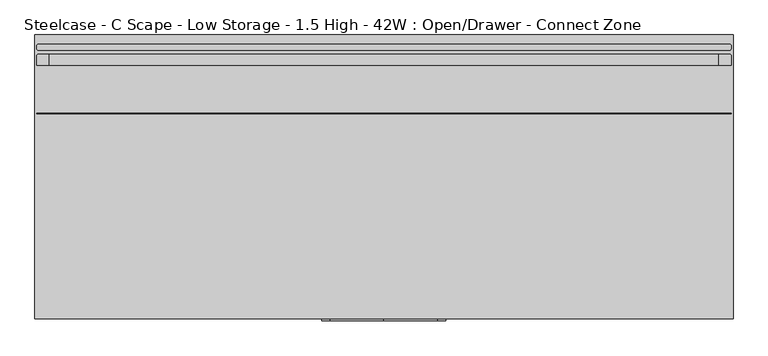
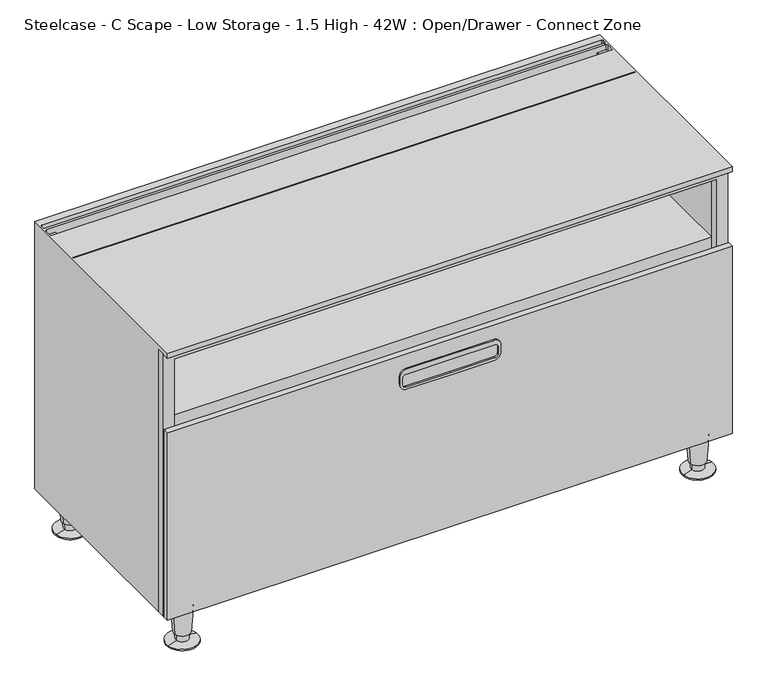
"""IFC4 building model written with IfcOpenShell, lengths in millimetres: furniture geometry, Steelcase - C Scape - Low Storage - 1.5 High - 42W : Open/Drawer - Connect Zone."""

from ifc_helpers import new_model, si_unit, point, frame, frame_2d, origin, place, context, project, spatial, polyline, circle_curve, trimmed, segment, composite_curve, outline, extrude, source, transform, mapped, element, save
from ifc_brep_helpers import plane_surface, cylinder_surface, revolved_surface, advanced_brep


def steelcase_c_scape_low_storage_1_5_high_42w_open_drawer_7091fb91(model_context):
    return source(origin(), model_context, "Body", "SolidModel", [
        extrude(outline(polyline([(599.44, 532.2710512), (599.44, 0.0), (76.1999955, 0.0), (76.1999955, 1065.53), (599.44, 1065.53), (599.44, 532.2710512)]), holes=[polyline([(92.7100024, 1043.5617285), (92.7100024, 21.3382324), (582.93, 21.3382324), (582.93, 1043.5617285), (92.7100024, 1043.5617285)])]), frame((0.0, -419.3484735, 0.0), z_axis=(0.0, 1.0, 0.0), x_axis=(0.0, 0.0, 1.0)), (0.0, 0.0, 1.0), 14.9862946),
        extrude(outline(composite_curve([segment(trimmed(circle_curve(frame_2d((409.5749879, 450.2147442)), 12.7), [point((422.2749879, 450.2147442))], [point((409.5749879, 437.5147442))], False, "CARTESIAN"), True, "CONTINUOUS"), segment(polyline([(409.5749879, 437.5147442), (394.970017, 437.5147442)]), True, "CONTINUOUS"), segment(trimmed(circle_curve(frame_2d((394.970017, 450.2147442)), 12.7), [point((394.970017, 437.5147442))], [point((382.270017, 450.2147442))], False, "CARTESIAN"), True, "CONTINUOUS"), segment(polyline([(382.270017, 450.2147442), (382.270017, 532.4475), (382.270017, 614.6802558)]), True, "CONTINUOUS"), segment(trimmed(circle_curve(frame_2d((394.970017, 614.6802558)), 12.7), [point((382.270017, 614.6802558))], [point((394.970017, 627.3802558))], False, "CARTESIAN"), True, "CONTINUOUS"), segment(polyline([(394.970017, 627.3802558), (409.5749879, 627.3802558)]), True, "CONTINUOUS"), segment(trimmed(circle_curve(frame_2d((409.5749879, 614.6802558)), 12.7), [point((409.5749879, 627.3802558))], [point((422.2749879, 614.6802558))], False, "CARTESIAN"), True, "CONTINUOUS"), segment(polyline([(422.2749879, 614.6802558), (422.2749879, 532.4475), (422.2749879, 450.2147442)]), True, "CONTINUOUS")], self_intersect=False), holes=[composite_curve([segment(trimmed(circle_curve(frame_2d((406.1460063, 448.6923565)), 6.35), [point((406.1460063, 442.3423565))], [point((412.4960063, 448.6923565))], True, "CARTESIAN"), True, "CONTINUOUS"), segment(polyline([(412.4960063, 448.6923565), (412.4960063, 532.4475), (412.4960063, 616.2026435)]), True, "CONTINUOUS"), segment(trimmed(circle_curve(frame_2d((406.1460063, 616.2026435)), 6.35), [point((412.4960063, 616.2026435))], [point((406.1460063, 622.5526435))], True, "CARTESIAN"), True, "CONTINUOUS"), segment(polyline([(406.1460063, 622.5526435), (393.4459942, 622.5526435)]), True, "CONTINUOUS"), segment(trimmed(circle_curve(frame_2d((393.4459942, 616.2026435)), 6.35), [point((393.4459942, 622.5526435))], [point((387.0959942, 616.2026435))], True, "CARTESIAN"), True, "CONTINUOUS"), segment(polyline([(387.0959942, 616.2026435), (387.0959942, 532.4475), (387.0959942, 448.6923565)]), True, "CONTINUOUS"), segment(trimmed(circle_curve(frame_2d((393.4459942, 448.6923565)), 6.35), [point((387.0959942, 448.6923565))], [point((393.4459942, 442.3423565))], True, "CARTESIAN"), True, "CONTINUOUS"), segment(polyline([(393.4459942, 442.3423565), (406.1460063, 442.3423565)]), True, "CONTINUOUS")], self_intersect=False)]), frame((0.0, -436.118, 0.0), z_axis=(0.0, 1.0, 0.0), x_axis=(0.0, 0.0, 1.0)), (0.0, 0.0, 1.0), 3.048),
        advanced_brep(
        [(1038.2598695, -31.5218435, 76.2), (1000.5981305, -37.2840847, 76.2), (1019.429, -34.4029641, 76.2), (1034.3095214, -32.1262463, 19.05), (1004.5484786, -36.6796819, 19.05), (1031.8799345, -32.4979728, 19.05), (1006.9780655, -36.3079555, 19.05), (1031.191165, -32.6033544, 5.7545598), (1007.666835, -36.2025738, 5.7545598), (1048.5400485, -29.9489775, 2.5119506), (990.3179515, -38.8569507, 2.5119506), (1048.5400485, -29.9489775, 0.0), (990.3179515, -38.8569507, 0.0), (1019.429, -34.4029641, 0.0)],
        [
            (0, 1, circle_curve(frame((1019.429, -34.4029641, 76.2), z_axis=(0.0, 0.0, 1.0), x_axis=(0.0, -1.0, 0.0)), 19.05)),
            (1, 2),
            (2, 0),
            (1, 0, circle_curve(frame((1019.429, -34.4029641, 76.2), z_axis=(0.0, 0.0, 1.0), x_axis=(0.0, -1.0, 0.0)), 19.05)),
            (3, 4, circle_curve(frame((1019.429, -34.4029641, 19.05), z_axis=(0.0, 0.0, 1.0), x_axis=(0.0, -1.0, 0.0)), 15.0536827)),
            (4, 1),
            (0, 3),
            (4, 3, circle_curve(frame((1019.429, -34.4029641, 19.05), z_axis=(0.0, 0.0, 1.0), x_axis=(0.0, -1.0, 0.0)), 15.0536827)),
            (5, 6, circle_curve(frame((1019.429, -34.4029641, 19.05), z_axis=(0.0, 0.0, 1.0), x_axis=(0.0, -1.0, 0.0)), 12.5958232)),
            (6, 4),
            (3, 5),
            (6, 5, circle_curve(frame((1019.429, -34.4029641, 19.05), z_axis=(0.0, 0.0, 1.0), x_axis=(0.0, -1.0, 0.0)), 12.5958232)),
            (7, 8, circle_curve(frame((1019.429, -34.4029641, 5.7545598), z_axis=(0.0, 0.0, 1.0), x_axis=(0.0, -1.0, 0.0)), 11.8990387)),
            (8, 6),
            (5, 7),
            (8, 7, circle_curve(frame((1019.429, -34.4029641, 5.7545598), z_axis=(0.0, 0.0, 1.0), x_axis=(0.0, -1.0, 0.0)), 11.8990387)),
            (9, 10, circle_curve(frame((1019.429, -34.4029641, 2.5119506), z_axis=(0.0, 0.0, 1.0), x_axis=(0.0, -1.0, 0.0)), 29.4498071)),
            (10, 8),
            (7, 9),
            (10, 9, circle_curve(frame((1019.429, -34.4029641, 2.5119506), z_axis=(0.0, 0.0, 1.0), x_axis=(0.0, -1.0, 0.0)), 29.4498071)),
            (11, 12, circle_curve(frame((1019.429, -34.4029641, 0.0), z_axis=(0.0, 0.0, 1.0), x_axis=(0.0, -1.0, 0.0)), 29.4498071)),
            (12, 10),
            (9, 11),
            (12, 11, circle_curve(frame((1019.429, -34.4029641, 0.0), z_axis=(0.0, 0.0, 1.0), x_axis=(0.0, -1.0, 0.0)), 29.4498071)),
            (13, 12),
            (11, 13),
        ],
        [
            plane_surface(frame((1019.429, -34.4029641, 76.2), z_axis=(0.0, 0.0, 1.0), x_axis=(0.0, -1.0, 0.0))),
            revolved_surface(polyline([(1019.429, -53.4529641, 76.2), (1019.429, -49.4566468, 19.05)]), (1019.429, -34.4029641, 25.4), (0.0, 0.0, -1.0)),
            plane_surface(frame((1019.429, -34.4029641, 19.05), z_axis=(0.0, 0.0, -1.0), x_axis=(0.0, -1.0, 0.0))),
            revolved_surface(polyline([(1019.429, -46.9987873, 19.05), (1019.429, -46.3020028, 5.7545598)]), (1019.429, -34.4029641, 25.4), (0.0, 0.0, -1.0)),
            revolved_surface(polyline([(1019.429, -46.3020028, 5.7545598), (1019.429, -63.8527712, 2.5119506)]), (1019.429, -34.4029641, 25.4), (0.0, 0.0, -1.0)),
            cylinder_surface(frame((1019.429, -34.4029641, 25.4), z_axis=(0.0, 0.0, -1.0), x_axis=(0.0, -1.0, 0.0)), 29.4498071),
            plane_surface(frame((1019.429, -34.4029641, 0.0), z_axis=(0.0, 0.0, -1.0), x_axis=(0.0, -1.0, 0.0))),
        ],
        [
            (0, [[1, 2, 3]]),
            (0, [[4, -3, -2]]),
            (1, [[5, 6, -1, 7]]),
            (1, [[8, -7, -4, -6]]),
            (2, [[9, 10, -5, 11]]),
            (2, [[12, -11, -8, -10]]),
            (3, [[13, 14, -9, 15]]),
            (3, [[16, -15, -12, -14]]),
            (4, [[17, 18, -13, 19]]),
            (4, [[20, -19, -16, -18]]),
            (5, [[21, 22, -17, 23]]),
            (5, [[24, -23, -20, -22]]),
            (6, [[25, -21, 26]]),
            (6, [[-26, -24, -25]]),
        ],
    ),
        advanced_brep(
        [(1038.2598695, -397.1702762, 76.2), (1000.5981305, -402.9325174, 76.2), (1019.429, -400.0513968, 76.2), (1034.3095214, -397.774679, 19.05), (1004.5484786, -402.3281146, 19.05), (1031.8799345, -398.1464055, 19.05), (1006.9780655, -401.9563882, 19.05), (1031.191165, -398.2517871, 5.7545598), (1007.666835, -401.8510065, 5.7545598), (1048.5400485, -395.5974102, 2.5119506), (990.3179515, -404.5053834, 2.5119506), (1048.5400485, -395.5974102, 0.0), (990.3179515, -404.5053834, 0.0), (1019.429, -400.0513968, 0.0)],
        [
            (0, 1, circle_curve(frame((1019.429, -400.0513968, 76.2), z_axis=(0.0, 0.0, 1.0), x_axis=(0.0, -1.0, 0.0)), 19.05)),
            (1, 2),
            (2, 0),
            (1, 0, circle_curve(frame((1019.429, -400.0513968, 76.2), z_axis=(0.0, 0.0, 1.0), x_axis=(0.0, -1.0, 0.0)), 19.05)),
            (3, 4, circle_curve(frame((1019.429, -400.0513968, 19.05), z_axis=(0.0, 0.0, 1.0), x_axis=(0.0, -1.0, 0.0)), 15.0536827)),
            (4, 1),
            (0, 3),
            (4, 3, circle_curve(frame((1019.429, -400.0513968, 19.05), z_axis=(0.0, 0.0, 1.0), x_axis=(0.0, -1.0, 0.0)), 15.0536827)),
            (5, 6, circle_curve(frame((1019.429, -400.0513968, 19.05), z_axis=(0.0, 0.0, 1.0), x_axis=(0.0, -1.0, 0.0)), 12.5958232)),
            (6, 4),
            (3, 5),
            (6, 5, circle_curve(frame((1019.429, -400.0513968, 19.05), z_axis=(0.0, 0.0, 1.0), x_axis=(0.0, -1.0, 0.0)), 12.5958232)),
            (7, 8, circle_curve(frame((1019.429, -400.0513968, 5.7545598), z_axis=(0.0, 0.0, 1.0), x_axis=(0.0, -1.0, 0.0)), 11.8990387)),
            (8, 6),
            (5, 7),
            (8, 7, circle_curve(frame((1019.429, -400.0513968, 5.7545598), z_axis=(0.0, 0.0, 1.0), x_axis=(0.0, -1.0, 0.0)), 11.8990387)),
            (9, 10, circle_curve(frame((1019.429, -400.0513968, 2.5119506), z_axis=(0.0, 0.0, 1.0), x_axis=(0.0, -1.0, 0.0)), 29.4498071)),
            (10, 8),
            (7, 9),
            (10, 9, circle_curve(frame((1019.429, -400.0513968, 2.5119506), z_axis=(0.0, 0.0, 1.0), x_axis=(0.0, -1.0, 0.0)), 29.4498071)),
            (11, 12, circle_curve(frame((1019.429, -400.0513968, 0.0), z_axis=(0.0, 0.0, 1.0), x_axis=(0.0, -1.0, 0.0)), 29.4498071)),
            (12, 10),
            (9, 11),
            (12, 11, circle_curve(frame((1019.429, -400.0513968, 0.0), z_axis=(0.0, 0.0, 1.0), x_axis=(0.0, -1.0, 0.0)), 29.4498071)),
            (13, 12),
            (11, 13),
        ],
        [
            plane_surface(frame((1019.429, -400.0513968, 76.2), z_axis=(0.0, 0.0, 1.0), x_axis=(0.0, -1.0, 0.0))),
            revolved_surface(polyline([(1019.429, -419.1013968, 76.2), (1019.429, -415.1050795, 19.05)]), (1019.429, -400.0513968, 25.4), (0.0, 0.0, -1.0)),
            plane_surface(frame((1019.429, -400.0513968, 19.05), z_axis=(0.0, 0.0, -1.0), x_axis=(0.0, -1.0, 0.0))),
            revolved_surface(polyline([(1019.429, -412.64722, 19.05), (1019.429, -411.9504355, 5.7545598)]), (1019.429, -400.0513968, 25.4), (0.0, 0.0, -1.0)),
            revolved_surface(polyline([(1019.429, -411.9504355, 5.7545598), (1019.429, -429.5012039, 2.5119506)]), (1019.429, -400.0513968, 25.4), (0.0, 0.0, -1.0)),
            cylinder_surface(frame((1019.429, -400.0513968, 25.4), z_axis=(0.0, 0.0, -1.0), x_axis=(0.0, -1.0, 0.0)), 29.4498071),
            plane_surface(frame((1019.429, -400.0513968, 0.0), z_axis=(0.0, 0.0, -1.0), x_axis=(0.0, -1.0, 0.0))),
        ],
        [
            (0, [[1, 2, 3]]),
            (0, [[4, -3, -2]]),
            (1, [[5, 6, -1, 7]]),
            (1, [[8, -7, -4, -6]]),
            (2, [[9, 10, -5, 11]]),
            (2, [[12, -11, -8, -10]]),
            (3, [[13, 14, -9, 15]]),
            (3, [[16, -15, -12, -14]]),
            (4, [[17, 18, -13, 19]]),
            (4, [[20, -19, -16, -18]]),
            (5, [[21, 22, -17, 23]]),
            (5, [[24, -23, -20, -22]]),
            (6, [[25, -21, 26]]),
            (6, [[-26, -24, -25]]),
        ],
    ),
        advanced_brep(
        [(65.5422821, -397.1702762, 76.2), (27.8805432, -402.9325174, 76.2), (46.7114126, -400.0513968, 76.2), (61.5919341, -397.774679, 19.05), (31.8308912, -402.3281146, 19.05), (59.1623471, -398.1464055, 19.05), (34.2604781, -401.9563882, 19.05), (58.4735776, -398.2517871, 5.7545598), (34.9492476, -401.8510065, 5.7545598), (75.8224611, -395.5974102, 2.5119506), (17.6003641, -404.5053834, 2.5119506), (75.8224611, -395.5974102, 0.0), (17.6003641, -404.5053834, 0.0), (46.7114126, -400.0513968, 0.0)],
        [
            (0, 1, circle_curve(frame((46.7114126, -400.0513968, 76.2), z_axis=(0.0, 0.0, 1.0), x_axis=(0.0, -1.0, 0.0)), 19.05)),
            (1, 2),
            (2, 0),
            (1, 0, circle_curve(frame((46.7114126, -400.0513968, 76.2), z_axis=(0.0, 0.0, 1.0), x_axis=(0.0, -1.0, 0.0)), 19.05)),
            (3, 4, circle_curve(frame((46.7114126, -400.0513968, 19.05), z_axis=(0.0, 0.0, 1.0), x_axis=(0.0, -1.0, 0.0)), 15.0536827)),
            (4, 1),
            (0, 3),
            (4, 3, circle_curve(frame((46.7114126, -400.0513968, 19.05), z_axis=(0.0, 0.0, 1.0), x_axis=(0.0, -1.0, 0.0)), 15.0536827)),
            (5, 6, circle_curve(frame((46.7114126, -400.0513968, 19.05), z_axis=(0.0, 0.0, 1.0), x_axis=(0.0, -1.0, 0.0)), 12.5958232)),
            (6, 4),
            (3, 5),
            (6, 5, circle_curve(frame((46.7114126, -400.0513968, 19.05), z_axis=(0.0, 0.0, 1.0), x_axis=(0.0, -1.0, 0.0)), 12.5958232)),
            (7, 8, circle_curve(frame((46.7114126, -400.0513968, 5.7545598), z_axis=(0.0, 0.0, 1.0), x_axis=(0.0, -1.0, 0.0)), 11.8990387)),
            (8, 6),
            (5, 7),
            (8, 7, circle_curve(frame((46.7114126, -400.0513968, 5.7545598), z_axis=(0.0, 0.0, 1.0), x_axis=(0.0, -1.0, 0.0)), 11.8990387)),
            (9, 10, circle_curve(frame((46.7114126, -400.0513968, 2.5119506), z_axis=(0.0, 0.0, 1.0), x_axis=(0.0, -1.0, 0.0)), 29.4498071)),
            (10, 8),
            (7, 9),
            (10, 9, circle_curve(frame((46.7114126, -400.0513968, 2.5119506), z_axis=(0.0, 0.0, 1.0), x_axis=(0.0, -1.0, 0.0)), 29.4498071)),
            (11, 12, circle_curve(frame((46.7114126, -400.0513968, 0.0), z_axis=(0.0, 0.0, 1.0), x_axis=(0.0, -1.0, 0.0)), 29.4498071)),
            (12, 10),
            (9, 11),
            (12, 11, circle_curve(frame((46.7114126, -400.0513968, 0.0), z_axis=(0.0, 0.0, 1.0), x_axis=(0.0, -1.0, 0.0)), 29.4498071)),
            (13, 12),
            (11, 13),
        ],
        [
            plane_surface(frame((46.7114126, -400.0513968, 76.2), z_axis=(0.0, 0.0, 1.0), x_axis=(0.0, -1.0, 0.0))),
            revolved_surface(polyline([(46.7114126, -419.1013968, 76.2), (46.7114126, -415.1050795, 19.05)]), (46.7114126, -400.0513968, 25.4), (0.0, 0.0, -1.0)),
            plane_surface(frame((46.7114126, -400.0513968, 19.05), z_axis=(0.0, 0.0, -1.0), x_axis=(0.0, -1.0, 0.0))),
            revolved_surface(polyline([(46.7114126, -412.64722, 19.05), (46.7114126, -411.9504355, 5.7545598)]), (46.7114126, -400.0513968, 25.4), (0.0, 0.0, -1.0)),
            revolved_surface(polyline([(46.7114126, -411.9504355, 5.7545598), (46.7114126, -429.5012039, 2.5119506)]), (46.7114126, -400.0513968, 25.4), (0.0, 0.0, -1.0)),
            cylinder_surface(frame((46.7114126, -400.0513968, 25.4), z_axis=(0.0, 0.0, -1.0), x_axis=(0.0, -1.0, 0.0)), 29.4498071),
            plane_surface(frame((46.7114126, -400.0513968, 0.0), z_axis=(0.0, 0.0, -1.0), x_axis=(0.0, -1.0, 0.0))),
        ],
        [
            (0, [[1, 2, 3]]),
            (0, [[4, -3, -2]]),
            (1, [[5, 6, -1, 7]]),
            (1, [[8, -7, -4, -6]]),
            (2, [[9, 10, -5, 11]]),
            (2, [[12, -11, -8, -10]]),
            (3, [[13, 14, -9, 15]]),
            (3, [[16, -15, -12, -14]]),
            (4, [[17, 18, -13, 19]]),
            (4, [[20, -19, -16, -18]]),
            (5, [[21, 22, -17, 23]]),
            (5, [[24, -23, -20, -22]]),
            (6, [[25, -21, 26]]),
            (6, [[-26, -24, -25]]),
        ],
    ),
        advanced_brep(
        [(65.5422821, -31.5218435, 76.2), (27.8805432, -37.2840847, 76.2), (46.7114126, -34.4029641, 76.2), (61.5919341, -32.1262463, 19.05), (31.8308912, -36.6796819, 19.05), (59.1623471, -32.4979728, 19.05), (34.2604781, -36.3079555, 19.05), (58.4735776, -32.6033544, 5.7545598), (34.9492476, -36.2025738, 5.7545598), (75.8224611, -29.9489775, 2.5119506), (17.6003641, -38.8569507, 2.5119506), (75.8224611, -29.9489775, 0.0), (17.6003641, -38.8569507, 0.0), (46.7114126, -34.4029641, 0.0)],
        [
            (0, 1, circle_curve(frame((46.7114126, -34.4029641, 76.2), z_axis=(0.0, 0.0, 1.0), x_axis=(0.0, -1.0, 0.0)), 19.05)),
            (1, 2),
            (2, 0),
            (1, 0, circle_curve(frame((46.7114126, -34.4029641, 76.2), z_axis=(0.0, 0.0, 1.0), x_axis=(0.0, -1.0, 0.0)), 19.05)),
            (3, 4, circle_curve(frame((46.7114126, -34.4029641, 19.05), z_axis=(0.0, 0.0, 1.0), x_axis=(0.0, -1.0, 0.0)), 15.0536827)),
            (4, 1),
            (0, 3),
            (4, 3, circle_curve(frame((46.7114126, -34.4029641, 19.05), z_axis=(0.0, 0.0, 1.0), x_axis=(0.0, -1.0, 0.0)), 15.0536827)),
            (5, 6, circle_curve(frame((46.7114126, -34.4029641, 19.05), z_axis=(0.0, 0.0, 1.0), x_axis=(0.0, -1.0, 0.0)), 12.5958232)),
            (6, 4),
            (3, 5),
            (6, 5, circle_curve(frame((46.7114126, -34.4029641, 19.05), z_axis=(0.0, 0.0, 1.0), x_axis=(0.0, -1.0, 0.0)), 12.5958232)),
            (7, 8, circle_curve(frame((46.7114126, -34.4029641, 5.7545598), z_axis=(0.0, 0.0, 1.0), x_axis=(0.0, -1.0, 0.0)), 11.8990387)),
            (8, 6),
            (5, 7),
            (8, 7, circle_curve(frame((46.7114126, -34.4029641, 5.7545598), z_axis=(0.0, 0.0, 1.0), x_axis=(0.0, -1.0, 0.0)), 11.8990387)),
            (9, 10, circle_curve(frame((46.7114126, -34.4029641, 2.5119506), z_axis=(0.0, 0.0, 1.0), x_axis=(0.0, -1.0, 0.0)), 29.4498071)),
            (10, 8),
            (7, 9),
            (10, 9, circle_curve(frame((46.7114126, -34.4029641, 2.5119506), z_axis=(0.0, 0.0, 1.0), x_axis=(0.0, -1.0, 0.0)), 29.4498071)),
            (11, 12, circle_curve(frame((46.7114126, -34.4029641, 0.0), z_axis=(0.0, 0.0, 1.0), x_axis=(0.0, -1.0, 0.0)), 29.4498071)),
            (12, 10),
            (9, 11),
            (12, 11, circle_curve(frame((46.7114126, -34.4029641, 0.0), z_axis=(0.0, 0.0, 1.0), x_axis=(0.0, -1.0, 0.0)), 29.4498071)),
            (13, 12),
            (11, 13),
        ],
        [
            plane_surface(frame((46.7114126, -34.4029641, 76.2), z_axis=(0.0, 0.0, 1.0), x_axis=(0.0, -1.0, 0.0))),
            revolved_surface(polyline([(46.7114126, -53.4529641, 76.2), (46.7114126, -49.4566468, 19.05)]), (46.7114126, -34.4029641, 25.4), (0.0, 0.0, -1.0)),
            plane_surface(frame((46.7114126, -34.4029641, 19.05), z_axis=(0.0, 0.0, -1.0), x_axis=(0.0, -1.0, 0.0))),
            revolved_surface(polyline([(46.7114126, -46.9987873, 19.05), (46.7114126, -46.3020028, 5.7545598)]), (46.7114126, -34.4029641, 25.4), (0.0, 0.0, -1.0)),
            revolved_surface(polyline([(46.7114126, -46.3020028, 5.7545598), (46.7114126, -63.8527712, 2.5119506)]), (46.7114126, -34.4029641, 25.4), (0.0, 0.0, -1.0)),
            cylinder_surface(frame((46.7114126, -34.4029641, 25.4), z_axis=(0.0, 0.0, -1.0), x_axis=(0.0, -1.0, 0.0)), 29.4498071),
            plane_surface(frame((46.7114126, -34.4029641, 0.0), z_axis=(0.0, 0.0, -1.0), x_axis=(0.0, -1.0, 0.0))),
        ],
        [
            (0, [[1, 2, 3]]),
            (0, [[4, -3, -2]]),
            (1, [[5, 6, -1, 7]]),
            (1, [[8, -7, -4, -6]]),
            (2, [[9, 10, -5, 11]]),
            (2, [[12, -11, -8, -10]]),
            (3, [[13, 14, -9, 15]]),
            (3, [[16, -15, -12, -14]]),
            (4, [[17, 18, -13, 19]]),
            (4, [[20, -19, -16, -18]]),
            (5, [[21, 22, -17, 23]]),
            (5, [[24, -23, -20, -22]]),
            (6, [[25, -21, 26]]),
            (6, [[-26, -24, -25]]),
        ],
    ),
        advanced_brep(
        [(1062.7272317, -120.6444193, 609.6), (1062.7272317, -119.3775195, 609.6), (1062.7272317, -119.3775195, 599.44), (1062.7272317, -120.6444193, 599.44), (1062.7272317, -46.4703418, 609.6), (1062.7272317, -32.274699, 609.6), (1062.7272317, -32.274699, 599.44), (1062.7272317, -46.4703418, 599.44), (1062.7272317, -20.3138654, 609.6), (1062.7272317, -17.0388453, 609.6), (1062.7272317, -17.0388453, 599.44), (1062.7272317, -20.3138654, 599.44), (1065.53, 0.0055807, 609.6), (1065.53, -433.07, 609.6), (1065.53, -433.07, 599.44), (1065.53, -404.362179, 599.44), (1065.53, -404.362179, 76.2), (1065.53, 0.0055807, 76.2), (0.0, -433.07, 609.6), (-0.012551, 0.0055807, 609.6), (1060.0308823, -29.5783496, 609.6), (2.7826272, -46.4703418, 609.6), (2.7826272, -32.0458511, 609.6), (5.2501287, -29.5783496, 609.6), (1059.7507358, -23.2903613, 609.6), (5.5670648, -23.2903613, 609.6), (2.7826272, -20.5059237, 609.6), (2.7826272, -17.0388453, 609.6), (5.4794022, -14.3420703, 609.6), (1060.0304567, -14.3420703, 609.6), (2.7826272, -119.3775195, 609.6), (2.7826272, -120.6444193, 609.6), (0.0, 0.0055807, 76.2), (648.0775189, 0.0055807, 466.2677968), (416.8174811, 0.0055807, 466.2677968), (416.8174811, 0.0055807, 432.6382043), (532.4475, 0.0055807, 432.6382043), (648.0775189, 0.0055807, 432.6382043), (648.0775189, -9.5194193, 466.2677968), (416.8174811, -9.5194193, 466.2677968), (648.0775189, -9.5194193, 435.8005068), (416.8174811, -9.5194193, 435.8005068), (5.2501287, -29.5783496, 599.44), (21.3382324, -29.5783496, 599.44), (21.3382324, -29.5783496, 458.7875121), (1043.5617285, -29.5783496, 458.7875121), (1043.5617285, -29.5783496, 599.44), (1060.0308823, -29.5783496, 599.44), (1043.5617285, -119.3775195, 599.44), (21.3382324, -119.3775195, 599.44), (21.3382324, -46.4703418, 599.44), (1043.5617285, -46.4703418, 599.44), (1059.7507358, -23.2903613, 599.44), (5.5670648, -23.2903613, 599.44), (2.7826272, -20.5059237, 599.44), (2.7826272, -32.0458511, 599.44), (2.7826272, -46.4703418, 599.44), (2.7826272, -119.3775195, 599.44), (5.4794022, -14.3420703, 599.44), (1060.0304567, -14.3420703, 599.44), (2.7826272, -17.0388453, 599.44), (21.3382324, -120.6444193, 599.44), (2.7826272, -120.6444193, 599.44), (1043.5617285, -120.6444193, 599.44), (21.3382324, -404.362179, 92.7100024), (1043.5617285, -404.362179, 92.7100024), (1043.5617285, -9.5194193, 92.7100024), (21.3382324, -9.5194193, 92.7100024), (0.0, -404.362179, 76.2), (21.3382324, -404.362179, 458.7875121), (21.3382324, -404.362179, 599.44), (0.0, -404.362179, 599.44), (1043.5617285, -404.362179, 599.44), (1043.5617285, -404.362179, 458.7875121), (21.3382324, -404.362179, 435.8005068), (1043.5617285, -404.362179, 435.8005068), (0.0, -433.07, 599.44), (21.3382324, -126.9863574, 599.44), (1043.5617285, -126.9863574, 599.44), (21.3382324, -126.9863574, 458.7875121), (1043.5617285, -126.9863574, 458.7875121), (1043.5617285, -120.6444193, 458.7875121), (21.3382324, -120.6444193, 458.7875121), (21.3382324, -9.5194193, 435.8005068), (1043.5617285, -9.5194193, 435.8005068), (648.0775189, -9.5194193, 432.6382043), (532.4475, -9.5194193, 432.6382043), (416.8174811, -9.5194193, 432.6382043)],
        [
            (0, 1),
            (1, 2),
            (2, 3),
            (3, 0),
            (4, 5),
            (5, 6),
            (6, 7),
            (7, 4),
            (8, 9),
            (9, 10),
            (10, 11),
            (11, 8),
            (12, 13),
            (13, 14),
            (14, 15),
            (15, 16),
            (16, 17),
            (17, 12),
            (18, 13),
            (12, 19),
            (19, 18),
            (20, 5, circle_curve(frame((1060.0308823, -32.274699, 609.6), z_axis=(0.0, 0.0, -1.0), x_axis=(1.0, 0.0, 0.0)), 2.6963494)),
            (4, 21),
            (21, 22),
            (22, 23, circle_curve(frame((5.2501287, -32.0458511, 609.6), z_axis=(0.0, 0.0, -1.0), x_axis=(1.0, 0.0, 0.0)), 2.4675015)),
            (23, 20),
            (8, 24, circle_curve(frame((1059.7507358, -20.3138654, 609.6), z_axis=(0.0, 0.0, -1.0), x_axis=(1.0, 0.0, 0.0)), 2.9764959)),
            (24, 25),
            (25, 26, circle_curve(frame((5.5670648, -20.5059237, 609.6), z_axis=(0.0, 0.0, -1.0), x_axis=(1.0, 0.0, 0.0)), 2.7844376)),
            (26, 27),
            (27, 28, circle_curve(frame((5.4794022, -17.0388453, 609.6), z_axis=(0.0, 0.0, -1.0), x_axis=(1.0, 0.0, 0.0)), 2.696775)),
            (28, 29),
            (29, 9, circle_curve(frame((1060.0304567, -17.0388453, 609.6), z_axis=(0.0, 0.0, -1.0), x_axis=(1.0, 0.0, 0.0)), 2.696775)),
            (30, 1),
            (0, 31),
            (31, 30),
            (17, 32),
            (32, 19),
            (33, 34),
            (34, 35),
            (35, 36),
            (36, 37),
            (37, 33),
            (33, 38),
            (38, 39),
            (39, 34),
            (38, 40),
            (40, 41),
            (41, 39),
            (23, 42),
            (42, 43),
            (43, 44),
            (44, 45),
            (45, 46),
            (46, 47),
            (47, 20),
            (48, 49),
            (49, 50),
            (50, 51),
            (51, 48),
            (47, 6, circle_curve(frame((1060.0308823, -32.274699, 599.44), z_axis=(0.0, 0.0, -1.0), x_axis=(1.0, 0.0, 0.0)), 2.6963494)),
            (11, 52, circle_curve(frame((1059.7507358, -20.3138654, 599.44), z_axis=(0.0, 0.0, -1.0), x_axis=(1.0, 0.0, 0.0)), 2.9764959)),
            (52, 24),
            (52, 53),
            (53, 25),
            (53, 54, circle_curve(frame((5.5670648, -20.5059237, 599.44), z_axis=(0.0, 0.0, -1.0), x_axis=(1.0, 0.0, 0.0)), 2.7844376)),
            (54, 26),
            (22, 55),
            (55, 42, circle_curve(frame((5.2501287, -32.0458511, 599.44), z_axis=(0.0, 0.0, -1.0), x_axis=(1.0, 0.0, 0.0)), 2.4675015)),
            (7, 51),
            (50, 56),
            (56, 21),
            (30, 57),
            (57, 49),
            (48, 2),
            (28, 58),
            (58, 59),
            (59, 29),
            (59, 10, circle_curve(frame((1060.0304567, -17.0388453, 599.44), z_axis=(0.0, 0.0, -1.0), x_axis=(1.0, 0.0, 0.0)), 2.696775)),
            (27, 60),
            (60, 58, circle_curve(frame((5.4794022, -17.0388453, 599.44), z_axis=(0.0, 0.0, -1.0), x_axis=(1.0, 0.0, 0.0)), 2.696775)),
            (61, 49),
            (57, 62),
            (62, 61),
            (48, 63),
            (63, 3),
            (60, 54),
            (50, 43),
            (55, 56),
            (46, 51),
            (64, 65),
            (65, 66),
            (66, 67),
            (67, 64),
            (16, 68),
            (68, 32),
            (69, 70),
            (70, 71),
            (71, 68),
            (15, 72),
            (72, 73),
            (73, 69),
            (64, 74),
            (74, 75),
            (75, 65),
            (18, 76),
            (76, 14),
            (76, 71),
            (70, 77),
            (77, 78),
            (78, 72),
            (77, 79),
            (79, 80),
            (80, 78),
            (63, 81),
            (81, 82),
            (82, 61),
            (62, 31),
            (44, 82),
            (81, 45),
            (79, 69),
            (73, 80),
            (74, 83),
            (83, 41),
            (40, 84),
            (84, 75),
            (67, 83),
            (84, 66),
            (85, 86),
            (86, 87),
            (87, 41),
            (40, 85),
            (37, 85),
            (36, 86),
            (35, 87),
        ],
        [
            plane_surface(frame((1062.7272317, -120.6444193, 609.6), z_axis=(-1.0, 0.0, 0.0), x_axis=(0.0, 0.0, 1.0))),
            plane_surface(frame((1065.53, -120.6444193, 609.6), z_axis=(1.0, 0.0, 0.0), x_axis=(0.0, 0.0, -1.0))),
            plane_surface(frame((1062.7272317, -120.6444193, 609.6), z_axis=(0.0, 0.0, 1.0), x_axis=(1.0, 0.0, 0.0))),
            plane_surface(frame((1062.7272317, 0.0055807, 609.6), z_axis=(0.0, 1.0, 0.0), x_axis=(1.0, 0.0, 0.0))),
            plane_surface(frame((1062.7272317, 0.0055807, 466.2677968), z_axis=(0.0, 0.0, -1.0), x_axis=(1.0, 0.0, 0.0))),
            plane_surface(frame((1062.7272317, -9.5194193, 466.2677968), z_axis=(0.0, 1.0, 0.0), x_axis=(1.0, 0.0, 0.0))),
            plane_surface(frame((1062.7272317, -29.5783496, 458.7875121), z_axis=(0.0, -1.0, 0.0), x_axis=(1.0, 0.0, 0.0))),
            plane_surface(frame((1062.7272317, -29.5783496, 599.44), z_axis=(0.0, 0.0, -1.0), x_axis=(1.0, 0.0, 0.0))),
            revolved_surface(polyline([(1062.7272317, -32.274699, 599.44), (1062.7272317, -32.274699, 609.6)]), (1060.0308823, -32.274699, 599.44), (0.0, 0.0, -1.0)),
            revolved_surface(polyline([(1062.7272317, -20.3138654, 599.44), (1062.7272317, -20.3138654, 609.6)]), (1059.7507358, -20.3138654, 599.44), (0.0, 0.0, -1.0)),
            plane_surface(frame((1059.7507358, -23.2903613, 609.6), z_axis=(0.0, 1.0, 0.0), x_axis=(0.0, 0.0, -1.0))),
            revolved_surface(polyline([(8.3515024, -20.5059237, 599.44), (8.3515024, -20.5059237, 609.6)]), (5.5670648, -20.5059237, 599.44), (0.0, 0.0, -1.0)),
            revolved_surface(polyline([(7.7176302, -32.0458511, 599.44), (7.7176302, -32.0458511, 609.6)]), (5.2501287, -32.0458511, 599.44), (0.0, 0.0, -1.0)),
            plane_surface(frame((1062.7272317, -46.4703418, 609.6), z_axis=(0.0, 1.0, 0.0), x_axis=(0.0, 0.0, -1.0))),
            plane_surface(frame((2.7826272, -119.3775195, 609.6), z_axis=(0.0, -1.0, 0.0), x_axis=(0.0, 0.0, -1.0))),
            plane_surface(frame((5.4794022, -14.3420703, 609.6), z_axis=(0.0, -1.0, 0.0), x_axis=(0.0, 0.0, -1.0))),
            revolved_surface(polyline([(1062.7272317, -17.0388453, 599.44), (1062.7272317, -17.0388453, 609.6)]), (1060.0304567, -17.0388453, 41.6295811), (0.0, 0.0, -1.0)),
            revolved_surface(polyline([(8.1761772, -17.0388453, 599.44), (8.1761772, -17.0388453, 609.6)]), (5.4794022, -17.0388453, 41.6295811), (0.0, 0.0, -1.0)),
            plane_surface(frame((1062.7272317, 0.0055807, 599.44), z_axis=(0.0, 0.0, 1.0), x_axis=(-1.0, 0.0, 0.0))),
            plane_surface(frame((0.0, 0.0, 92.7100024), z_axis=(0.0, 0.0, 1.0), x_axis=(-1.0, 0.0, 0.0))),
            plane_surface(frame((0.0, 0.0, 76.2), z_axis=(0.0, 0.0, -1.0), x_axis=(1.0, 0.0, 0.0))),
            plane_surface(frame((21.3382324, -404.362179, 92.7100024), z_axis=(0.0, -1.0, 0.0), x_axis=(0.0, 0.0, -1.0))),
            plane_surface(frame((1065.53, -433.07, 609.6), z_axis=(0.0, -1.0, 0.0), x_axis=(-1.0, 0.0, 0.0))),
            plane_surface(frame((1065.53, -433.07, 599.44), z_axis=(0.0, 0.0, -1.0), x_axis=(-1.0, 0.0, 0.0))),
            plane_surface(frame((1065.53, -126.9863574, 599.44), z_axis=(0.0, -1.0, 0.0), x_axis=(-1.0, 0.0, 0.0))),
            plane_surface(frame((1065.53, -120.6444193, 457.1999955), z_axis=(0.0, 1.0, 0.0), x_axis=(-1.0, 0.0, 0.0))),
            plane_surface(frame((0.0, -9.5194193, 458.7875121), z_axis=(0.0, 0.0, 1.0), x_axis=(-1.0, 0.0, 0.0))),
            plane_surface(frame((0.0, -9.5194193, 435.8005068), z_axis=(0.0, 0.0, -1.0), x_axis=(1.0, 0.0, 0.0))),
            plane_surface(frame((21.3382324, -404.362179, 599.44), z_axis=(1.0, 0.0, 0.0), x_axis=(0.0, 0.0, -1.0))),
            plane_surface(frame((1043.5617285, -9.5194193, 599.44), z_axis=(-1.0, 0.0, 0.0), x_axis=(0.0, 0.0, -1.0))),
            plane_surface(frame((2.7826272, -120.6444193, 599.44), z_axis=(1.0, 0.0, 0.0), x_axis=(0.0, 1.0, 0.0))),
            plane_surface(frame((648.0775189, -9.5194193, 459.9177968), z_axis=(0.0, -1.0, 0.0), x_axis=(0.0, 0.0, -1.0))),
            plane_surface(frame((648.0775189, -9.5194193, 466.2677968), z_axis=(-1.0, 0.0, 0.0), x_axis=(0.0, 1.0, 0.0))),
            plane_surface(frame((648.0775189, -9.5194193, 432.6382043), z_axis=(0.0, 0.0, 1.0), x_axis=(0.0, 1.0, 0.0))),
            plane_surface(frame((532.4475, -9.5194193, 432.6382043), z_axis=(0.0, 0.0, 1.0), x_axis=(0.0, 1.0, 0.0))),
            plane_surface(frame((416.8174811, -9.5194193, 432.6382043), z_axis=(1.0, 0.0, 0.0), x_axis=(0.0, 1.0, 0.0))),
            plane_surface(frame((0.0, -433.07, 609.6), z_axis=(-1.0, 0.0, 0.0), x_axis=(0.0, 1.0, 0.0))),
        ],
        [
            (0, [[1, 2, 3, 4]]),
            (0, [[5, 6, 7, 8]]),
            (0, [[9, 10, 11, 12]]),
            (1, [[13, 14, 15, 16, 17, 18]]),
            (2, [[19, -13, 20, 21], [22, -5, 23, 24, 25, 26], [27, 28, 29, 30, 31, 32, 33, -9], [34, -1, 35, 36]]),
            (3, [[-18, 37, 38, -20], [39, 40, 41, 42, 43]]),
            (4, [[-39, 44, 45, 46]]),
            (5, [[-45, 47, 48, 49]]),
            (6, [[-26, 50, 51, 52, 53, 54, 55, 56]]),
            (7, [[57, 58, 59, 60]]),
            (8, [[-22, -56, 61, -6]]),
            (9, [[-27, -12, 62, 63]]),
            (10, [[-28, -63, 64, 65]]),
            (11, [[-29, -65, 66, 67]]),
            (12, [[-25, 68, 69, -50]]),
            (13, [[-23, -8, 70, -59, 71, 72]]),
            (14, [[-34, 73, 74, -57, 75, -2]]),
            (15, [[-32, 76, 77, 78]]),
            (16, [[-33, -78, 79, -10]]),
            (17, [[-31, 80, 81, -76]]),
            (18, [[82, -74, 83, 84]]),
            (18, [[85, 86, -3, -75]]),
            (18, [[-11, -79, -77, -81, 87, -66, -64, -62]]),
            (18, [[88, -51, -69, 89, -71]]),
            (18, [[90, -70, -7, -61, -55]]),
            (19, [[91, 92, 93, 94]]),
            (20, [[-37, -17, 95, 96]]),
            (21, [[97, 98, 99, -95, -16, 100, 101, 102], [-91, 103, 104, 105]]),
            (22, [[-14, -19, 106, 107]]),
            (23, [[-107, 108, -98, 109, 110, 111, -100, -15]]),
            (24, [[-110, 112, 113, 114]]),
            (25, [[-4, -86, 115, 116, 117, -84, 118, -35]]),
            (26, [[-53, 119, -116, 120]]),
            (26, [[-113, 121, -102, 122]]),
            (27, [[-104, 123, 124, -48, 125, 126]]),
            (28, [[-103, -94, 127, -123]]),
            (28, [[-97, -121, -112, -109]]),
            (28, [[-88, -58, -82, -117, -119, -52]]),
            (29, [[-105, -126, 128, -92]]),
            (29, [[-101, -111, -114, -122]]),
            (29, [[-90, -54, -120, -115, -85, -60]]),
            (30, [[-24, -72, -89, -68]]),
            (30, [[-30, -67, -87, -80]]),
            (30, [[-36, -118, -83, -73]]),
            (31, [[129, 130, 131, -124, -127, -93, -128, -125, 132]]),
            (32, [[-43, 133, -132, -47, -44]]),
            (33, [[-129, -133, -42, 134]]),
            (34, [[-130, -134, -41, 135]]),
            (35, [[-40, -46, -49, -131, -135]]),
            (36, [[-106, -21, -38, -96, -99, -108]]),
        ],
    ),
        extrude(outline(polyline([(1065.53, -422.5233329), (1065.53, -433.07), (0.0, -433.07), (0.0, -422.5233329), (1065.53, -422.5233329)])), frame((0.0, 0.0, 76.2), z_axis=(0.0, 0.0, 1.0), x_axis=(1.0, 0.0, 0.0)), (0.0, 0.0, 1.0), 374.6499879),
    ])


if __name__ == "__main__":
    model = new_model("IFC4")
    model_context = context("Model", 3, world=origin())
    ifc_project = project(units=[si_unit("LENGTHUNIT", "METRE", prefix="MILLI")], contexts=[model_context])
    site = spatial("IfcSite", under=ifc_project)
    building = spatial("IfcBuilding", under=site)
    placement = place(None, origin())
    steelcase_c_scape_low_storage_1_5_high_42w_open_drawer_shape = steelcase_c_scape_low_storage_1_5_high_42w_open_drawer_7091fb91(model_context)
    element("IfcFurniture", 1, ObjectType="Steelcase - C Scape - Low Storage - 1.5 High - 42W : Open/Drawer - Connect Zone", at=placement, inside=building, context=model_context, shape_type="MappedRepresentation", body=[
        mapped(steelcase_c_scape_low_storage_1_5_high_42w_open_drawer_shape, transform((0.0, 0.0, 0.0), x_axis=(1.0, 0.0, 0.0), y_axis=(0.0, 1.0, 0.0), z_axis=(0.0, 0.0, 1.0))),
    ])
    save(model, "model.ifc")
